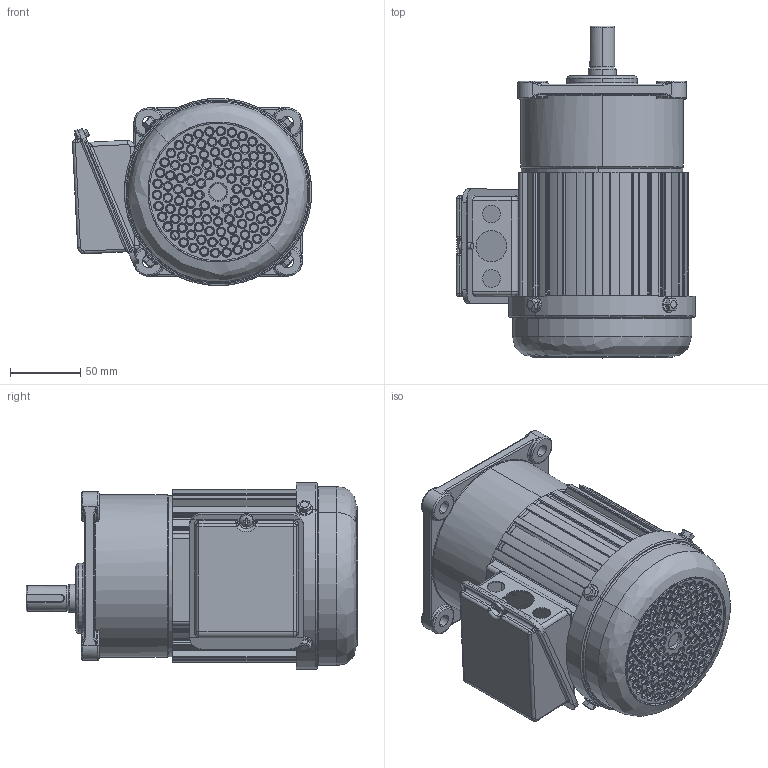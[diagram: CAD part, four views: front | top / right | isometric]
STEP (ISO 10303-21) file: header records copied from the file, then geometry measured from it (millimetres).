
FILE_DESCRIPTION (( 'STEP AP203' ), '1' );
FILE_NAME ('单相100W1#立式.STEP', '2015-10-21T02:33:54', ( '微软中国' ), ( '微软用户' ), 'SwSTEP 2.0', 'SolidWorks 2009', '' );
FILE_SCHEMA (( 'CONFIG_CONTROL_DESIGN' ));
Length unit declared in the file: millimetre
Products named in the file (11): 100W綴裔; 蚾饜极3; 等眈100W諉盄碟釱; 等眈100W諉盄碟裔; 等眈100W1#蕾宒; 100W儂褲; 瑞欶盓殤; 100W瑞欶; Hex Flange Bolts-Heavy Grade B GB_GB_FASTENER_BOLT_HFBB M5X10-N; 1#蕾宒熬厒ん; Cross recessed pan head screws GB_GB_CROSS_SCREWS_TYPE1 M5X6-6  H type-N
Assembly tree (16 placements, depth 3):
  等眈100W1#蕾宒
    Hex Flange Bolts-Heavy Grade B GB_GB_FASTENER_BOLT_HFBB M5X10-N  x4
    瑞欶盓殤  x4
    100W瑞欶
    1#蕾宒熬厒ん
    100W綴裔
    蚾饜极3
      等眈100W諉盄碟裔
      等眈100W諉盄碟釱
      Cross recessed pan head screws GB_GB_CROSS_SCREWS_TYPE1 M5X6-6  H type-N
    100W儂褲
Bounding box: 170.37 x 236.5 x 133.25 mm (x, y, z)
Volume: 1140235.3 mm3; surface area: 297241.3 mm2
Topology: 15 solids, 15 shells, 1526 faces, 3957 edges, 2454 vertices
Faces by surface type: bspline 690, cylinder 489, plane 287, torus 30, cone 24, sphere 6
Entity records: 58459 total; most frequent: CARTESIAN_POINT 23913, ORIENTED_EDGE 7344, DIRECTION 6789, EDGE_CURVE 3672, AXIS2_PLACEMENT_3D 2815, VERTEX_POINT 2292, CIRCLE 2058, EDGE_LOOP 1698
